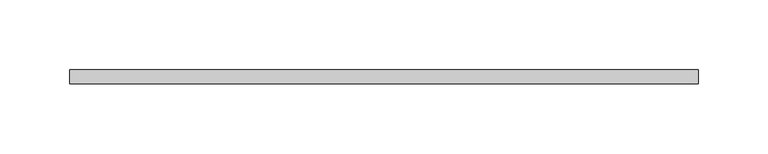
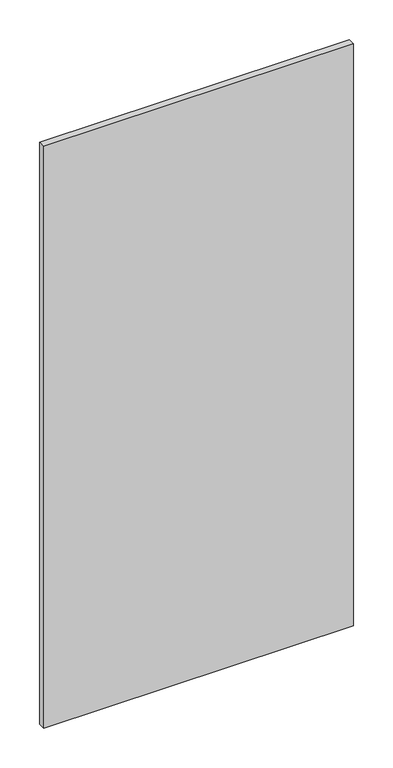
"""IFC4 building model written with IfcOpenShell, lengths in millimetres: plate geometry, システム パネル : 標準."""

from ifc_helpers import new_model, si_unit, origin, origin_with_axes, place, context, project, spatial, polyline, outline, extrude, source, transform, mapped, element, save


def plate_46ceffe4(model_context):
    return source(origin(), model_context, "Body", "SweptSolid", [
        extrude(outline(polyline([(225.5659815, -5.0), (-225.5659815, -5.0), (-225.5659815, 5.0), (225.5659815, 5.0), (225.5659815, -5.0)])), origin_with_axes(), (0.0, 0.0, 1.0), 895.0),
    ])


if __name__ == "__main__":
    model = new_model("IFC4")
    model_context = context("Model", 3, world=origin())
    ifc_project = project(units=[si_unit("LENGTHUNIT", "METRE", prefix="MILLI")], contexts=[model_context])
    site = spatial("IfcSite", under=ifc_project)
    building = spatial("IfcBuilding", under=site)
    placement = place(None, origin())
    plate_shape = plate_46ceffe4(model_context)
    element("IfcPlate", 1, ObjectType="システム パネル : 標準", at=placement, inside=building, context=model_context, shape_type="MappedRepresentation", body=[
        mapped(plate_shape, transform((0.0, 0.0, 0.0), x_axis=(1.0, 0.0, 0.0), y_axis=(0.0, 1.0, 0.0), z_axis=(0.0, 0.0, 1.0))),
    ])
    save(model, "model.ifc")
